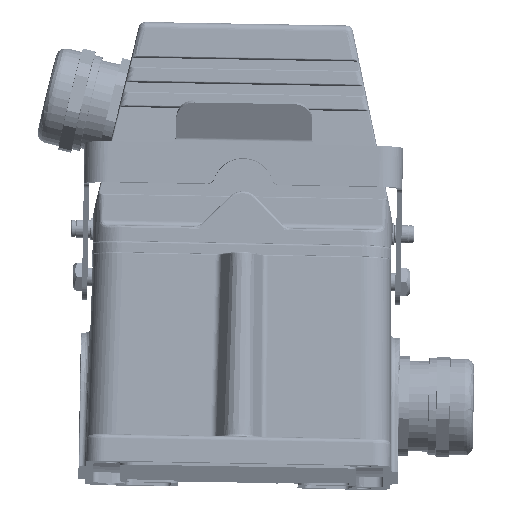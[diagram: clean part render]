
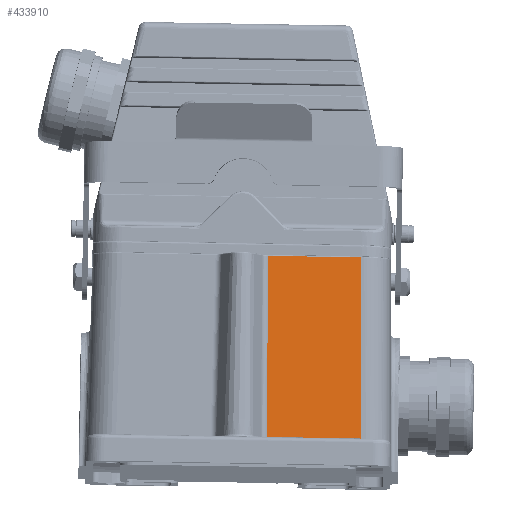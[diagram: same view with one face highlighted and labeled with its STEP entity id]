
A CAD part, top view. The second image highlights one B-rep face of the part: STEP entity #433910.
In plain terms, the highlighted planar face has unit normal (0.002, 0.106, 0.994) as drawn and (0, -1, 0.017) by its records, which use the part's own axes.
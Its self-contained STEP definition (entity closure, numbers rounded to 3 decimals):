
#3248 = B_SPLINE_CURVE_WITH_KNOTS ( 'NONE', 3,
 ( #162954, #246083, #15400, #415223 ),
 .UNSPECIFIED., .F., .F.,
 ( 4, 4 ),
 ( 0., 1. ),
 .UNSPECIFIED. ) ;
#6260 = DIRECTION ( 'NONE',  ( 1., 0., 0. ) ) ;
#15400 = CARTESIAN_POINT ( 'NONE',  ( 39.05, -44.509, 33.44 ) ) ;
#45877 = EDGE_CURVE ( 'NONE', #370442, #200572, #3248, .T. ) ;
#67872 = LINE ( 'NONE', #317023, #511602 ) ;
#81744 = VERTEX_POINT ( 'NONE', #395625 ) ;
#106707 = EDGE_CURVE ( 'NONE', #200572, #81744, #67872, .T. ) ;
#162954 = CARTESIAN_POINT ( 'NONE',  ( 11.609, -44.509, 33.44 ) ) ;
#163331 = EDGE_CURVE ( 'NONE', #370442, #629421, #163334, .T. ) ;
#163334 = LINE ( 'NONE', #507576, #278217 ) ;
#182305 = CARTESIAN_POINT ( 'NONE',  ( 52.77, -44.509, 33.44 ) ) ;
#193942 = AXIS2_PLACEMENT_3D ( 'NONE', #452908, #320912, #324159 ) ;
#200572 = VERTEX_POINT ( 'NONE', #182305 ) ;
#246083 = CARTESIAN_POINT ( 'NONE',  ( 25.329, -44.509, 33.44 ) ) ;
#255463 = CARTESIAN_POINT ( 'NONE',  ( -54.52, -45.914, -47.086 ) ) ;
#256267 = CARTESIAN_POINT ( 'NONE',  ( 11.609, -44.509, 33.44 ) ) ;
#278217 = VECTOR ( 'NONE', #301229, 1000. ) ;
#301229 = DIRECTION ( 'NONE',  ( 0.01, -0.017, -1. ) ) ;
#313804 = DIRECTION ( 'NONE',  ( 0.017, -0.017, -1. ) ) ;
#317023 = CARTESIAN_POINT ( 'NONE',  ( 52.753, -44.492, 34.406 ) ) ;
#320912 = DIRECTION ( 'NONE',  ( 0., -1., 0.017 ) ) ;
#324159 = DIRECTION ( 'NONE',  ( -1., 0., 0. ) ) ;
#346275 = EDGE_CURVE ( 'NONE', #629421, #81744, #353794, .T. ) ;
#351453 = FACE_OUTER_BOUND ( 'NONE', #499745, .T. ) ;
#353794 = LINE ( 'NONE', #255463, #595704 ) ;
#361715 = ORIENTED_EDGE ( 'NONE', *, *, #163331, .T. ) ;
#370442 = VERTEX_POINT ( 'NONE', #256267 ) ;
#395625 = CARTESIAN_POINT ( 'NONE',  ( 54.175, -45.914, -47.086 ) ) ;
#415223 = CARTESIAN_POINT ( 'NONE',  ( 52.77, -44.509, 33.44 ) ) ;
#433910 = ADVANCED_FACE ( 'NONE', ( #351453 ), #600441, .T. ) ;
#452908 = CARTESIAN_POINT ( 'NONE',  ( -70.954, -44.5, 33.931 ) ) ;
#478327 = ORIENTED_EDGE ( 'NONE', *, *, #346275, .T. ) ;
#499745 = EDGE_LOOP ( 'NONE', ( #618952, #603693, #361715, #478327 ) ) ;
#507576 = CARTESIAN_POINT ( 'NONE',  ( 11.609, -44.509, 33.44 ) ) ;
#511602 = VECTOR ( 'NONE', #313804, 1000. ) ;
#534992 = CARTESIAN_POINT ( 'NONE',  ( 12.421, -45.914, -47.086 ) ) ;
#595704 = VECTOR ( 'NONE', #6260, 1000. ) ;
#600441 = PLANE ( 'NONE',  #193942 ) ;
#603693 = ORIENTED_EDGE ( 'NONE', *, *, #45877, .F. ) ;
#618952 = ORIENTED_EDGE ( 'NONE', *, *, #106707, .F. ) ;
#629421 = VERTEX_POINT ( 'NONE', #534992 ) ;
